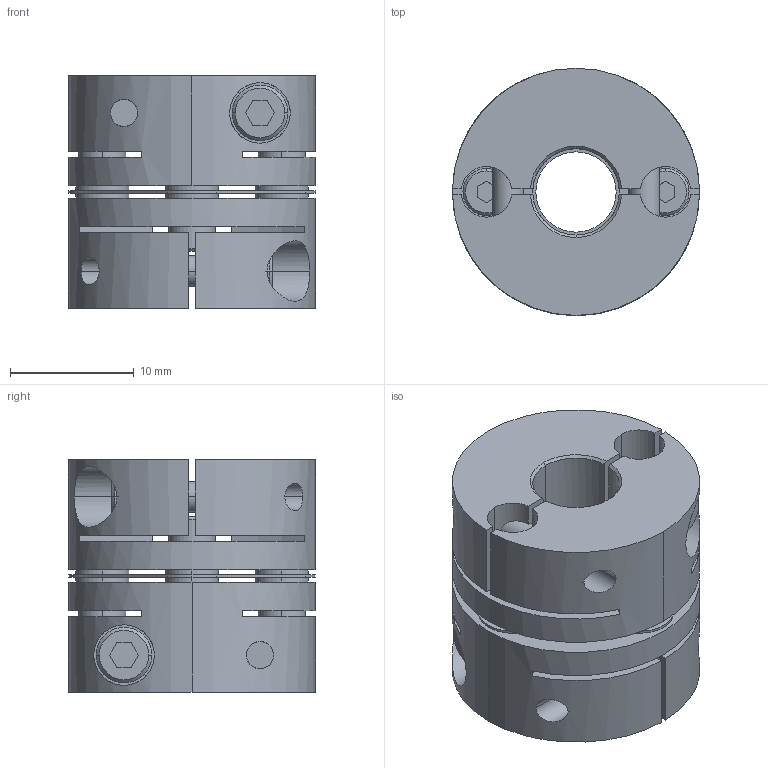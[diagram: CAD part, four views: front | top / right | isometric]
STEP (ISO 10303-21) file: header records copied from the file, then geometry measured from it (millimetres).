
FILE_DESCRIPTION((''),'2;1');
FILE_NAME('LAS-20C-7×7.stp','2011-08-10T08:58:24',(''),(''),'AutoCAD STEP 2000i','AutoCAD 2000i',', , ');
FILE_SCHEMA(('CONFIG_CONTROL_DESIGN'));
Length unit declared in the file: millimetre
Products named in the file (5): LAS-20C-4×4; 忣兜1; LA-2002-D04-1; LA-2002-D04; LAS20-ITA
Assembly tree (4 placements, depth 2):
  LAS-20C-4×4
    忣兜1
    LA-2002-D04-1
    LA-2002-D04
    LAS20-ITA
Bounding box: 20 x 20 x 18.8 mm (x, y, z)
Volume: 4342.5 mm3; surface area: 4491.1 mm2
Topology: 1 solids, 1 shells, 236 faces, 624 edges, 408 vertices
Faces by surface type: plane 112, cylinder 96, cone 28
Entity records: 8203 total; most frequent: CARTESIAN_POINT 2009, DIRECTION 1302, ORIENTED_EDGE 1248, EDGE_CURVE 624, AXIS2_PLACEMENT_3D 477, VERTEX_POINT 408, VECTOR 348, LINE 348
